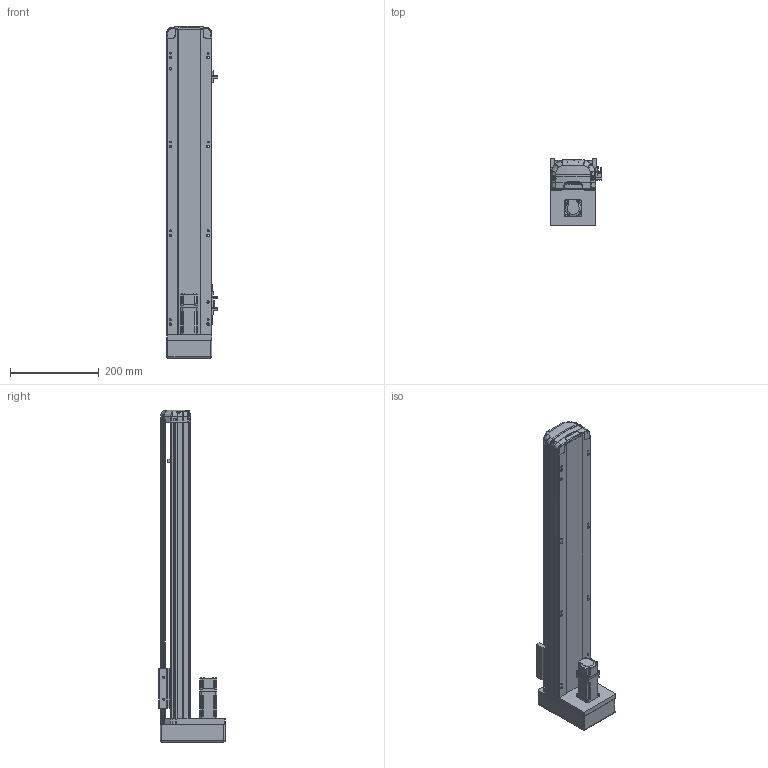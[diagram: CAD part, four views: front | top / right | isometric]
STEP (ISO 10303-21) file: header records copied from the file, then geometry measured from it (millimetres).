
FILE_DESCRIPTION (( 'STEP AP214' ), '1' );
FILE_NAME ('RTH10-XX-500-M-M10-C4.STEP', '2025-10-25T05:45:19', ( 'Microsoft' ), ( 'Microsoft' ), 'SwSTEP 2.0', 'SolidWorks 2018', '' );
FILE_SCHEMA (( 'AUTOMOTIVE_DESIGN' ));
Length unit declared in the file: millimetre
Products named in the file (10): RTH10-XX-500-M-M10-C4; N_RTH12-M-007P-奻裔^RTH10-XX-100-M-M10-C4; N_P10^RTH10-XX-100-M-M10-C4; N_RTH12-GY-004-賑釱^RTH10-XX-100-M-M10-C4; N_RTH12-M-018-裔赽^RTH10-XX-100-M-M10-C4; N_RTH12-M-008-萇儂啣^RTH10-XX-100-M-M10-C4; N_RTH12-GY-001P^RTH10-XX-100-M-M10-C4; N_OMRON EE-SX672 传感器^RTH10-XX-100-M-M10-C4; N_RTH13-L-012覜茼え俋离^RTH10-XX-100-M-M10-C4; N_RTH12-M-011P-臏倰第菁釱^RTH10-XX-100-M-M10-C4
Assembly tree (11 placements, depth 2):
  RTH10-XX-500-M-M10-C4
    N_RTH12-M-011P-臏倰第菁釱^RTH10-XX-100-M-M10-C4
    N_RTH13-L-012覜茼え俋离^RTH10-XX-100-M-M10-C4
    N_OMRON EE-SX672 传感器^RTH10-XX-100-M-M10-C4  x3
    N_P10^RTH10-XX-100-M-M10-C4
    N_RTH12-M-007P-奻裔^RTH10-XX-100-M-M10-C4
    N_RTH12-M-008-萇儂啣^RTH10-XX-100-M-M10-C4
    N_RTH12-M-018-裔赽^RTH10-XX-100-M-M10-C4
    N_RTH12-GY-004-賑釱^RTH10-XX-100-M-M10-C4
    N_RTH12-GY-001P^RTH10-XX-100-M-M10-C4
Bounding box: 116.5 x 149 x 747.14 mm (x, y, z)
Volume: 3577236.9 mm3; surface area: 542166.4 mm2
Topology: 10 solids, 12 shells, 1913 faces, 5329 edges, 3495 vertices
Faces by surface type: plane 951, bspline 472, cylinder 455, cone 29, sphere 4, torus 2
Entity records: 57365 total; most frequent: CARTESIAN_POINT 22947, ORIENTED_EDGE 7730, DIRECTION 5907, EDGE_CURVE 3871, VERTEX_POINT 2539, LINE 2045, VECTOR 2045, AXIS2_PLACEMENT_3D 1931
